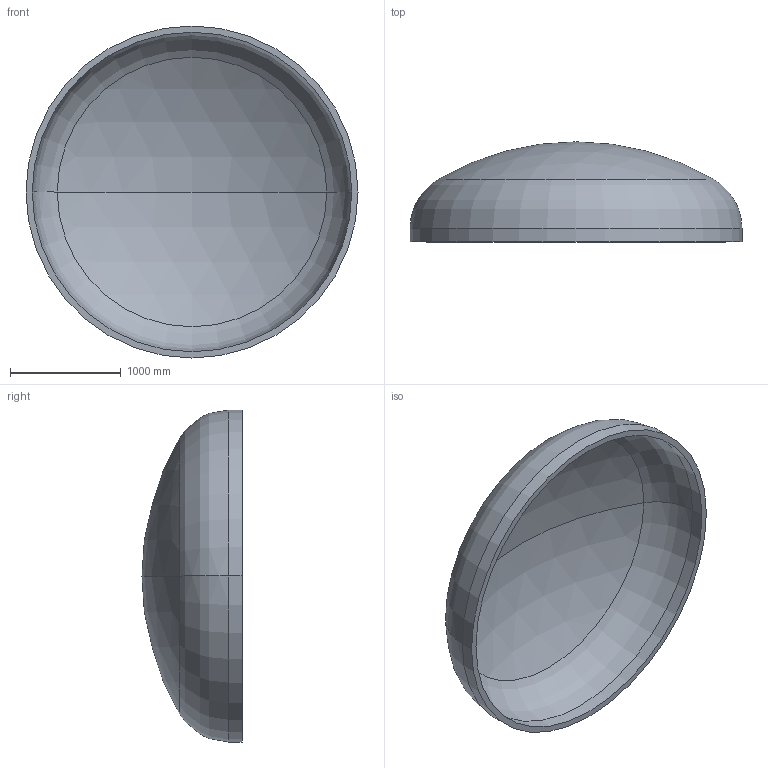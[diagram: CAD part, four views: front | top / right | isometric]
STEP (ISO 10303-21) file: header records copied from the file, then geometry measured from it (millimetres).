
FILE_DESCRIPTION (( 'STEP AP203' ), '1' );
FILE_NAME ('DIN 28013 Korbbogenform_-_Boden DIN 28013 - 3000 x 120 - I - s=56.step', '2016-07-01T17:53:44', ( '' ), ( '' ), 'SwSTEP 2.0', 'SolidWorks 2013', '' );
FILE_SCHEMA (( 'CONFIG_CONTROL_DESIGN' ));
Length unit declared in the file: millimetre
Products named in the file (1): DIN 28013 Korbbogenform_-_Boden DIN 28013 - 3000 x 120 - I - s=56
Bounding box: 3000 x 904.07 x 3000 mm (x, y, z)
Volume: 596606368.6 mm3; surface area: 21831866.5 mm2
Topology: 1 solids, 1 shells, 13 faces, 24 edges, 14 vertices
Faces by surface type: torus 4, cylinder 4, sphere 4, plane 1
Entity records: 407 total; most frequent: DIRECTION 72, CARTESIAN_POINT 52, ORIENTED_EDGE 48, AXIS2_PLACEMENT_3D 34, EDGE_CURVE 24, CIRCLE 20, EDGE_LOOP 14, VERTEX_POINT 14
